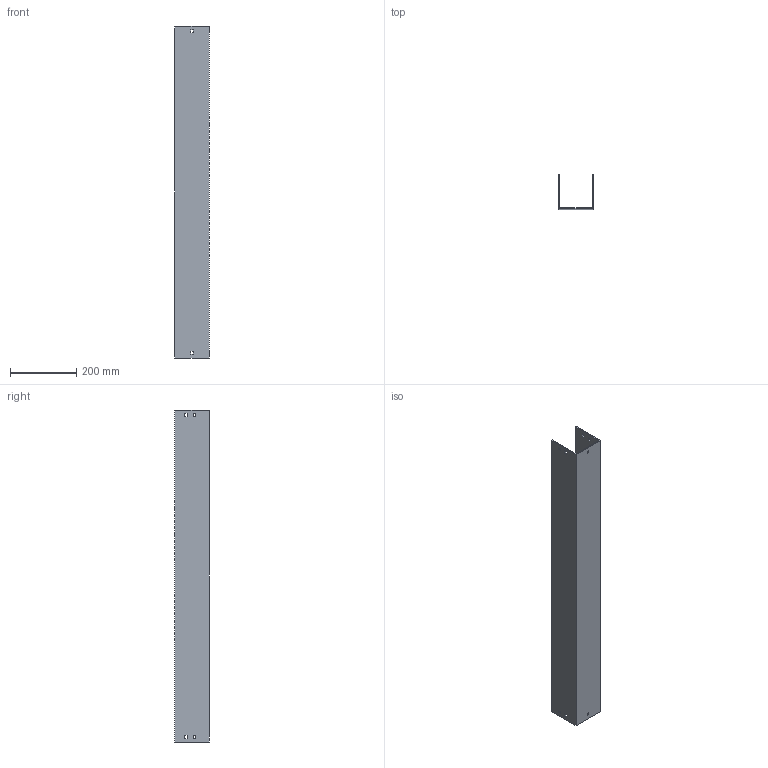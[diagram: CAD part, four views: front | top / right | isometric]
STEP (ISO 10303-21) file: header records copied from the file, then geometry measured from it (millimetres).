
FILE_DESCRIPTION (( 'STEP AP214' ), '1' );
FILE_NAME ('03F1D100.step', '2025-02-21T13:15:18', ( '' ), ( '' ), 'SwSTEP 2.0', 'SolidWorks 2023', '' );
FILE_SCHEMA (( 'AUTOMOTIVE_DESIGN' ));
Length unit declared in the file: millimetre
Products named in the file (1): 03F1D100
Bounding box: 104 x 104 x 1000 mm (x, y, z)
Volume: 1065130.5 mm3; surface area: 618950 mm2
Topology: 1 solids, 1 shells, 50 faces, 144 edges, 96 vertices
Faces by surface type: plane 50
Entity records: 1671 total; most frequent: CARTESIAN_POINT 291, ORIENTED_EDGE 288, DIRECTION 246, EDGE_CURVE 144, VECTOR 144, LINE 144, VERTEX_POINT 96, EDGE_LOOP 70
